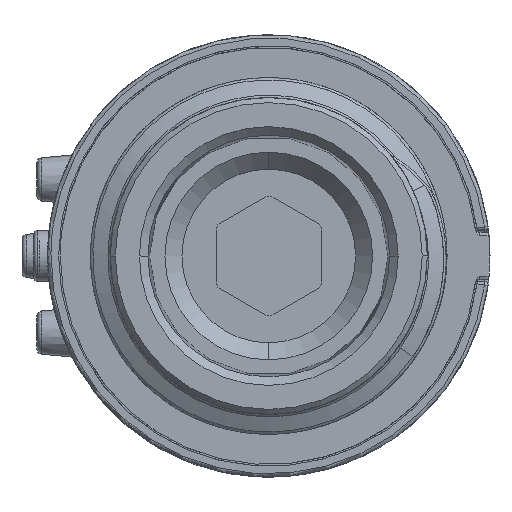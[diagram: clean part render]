
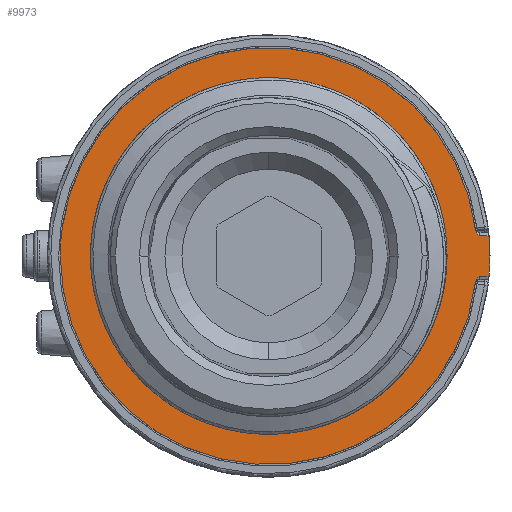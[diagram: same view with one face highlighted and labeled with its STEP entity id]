
A CAD part, front view. The second image highlights one B-rep face of the part: STEP entity #9973.
In plain terms, the highlighted planar face has unit normal (0, -1, 0) as drawn and (1, 0, 0) by its records, which use the part's own axes.
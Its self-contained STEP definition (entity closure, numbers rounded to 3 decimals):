
#6098=CARTESIAN_POINT('',(-10.4,0.,0.));
#6099=DIRECTION('',(-1.,0.,0.));
#6100=DIRECTION('',(0.,0.996,0.092));
#6101=AXIS2_PLACEMENT_3D('',#6098,#6099,#6100);
#6103=CARTESIAN_POINT('',(-10.4,0.,0.));
#6104=DIRECTION('',(-1.,0.,0.));
#6105=DIRECTION('',(0.,1.,0.));
#6106=AXIS2_PLACEMENT_3D('',#6103,#6104,#6105);
#6108=CARTESIAN_POINT('',(-10.4,0.,0.));
#6109=DIRECTION('',(-1.,0.,0.));
#6110=DIRECTION('',(0.,0.992,-0.124));
#6111=AXIS2_PLACEMENT_3D('',#6108,#6109,#6110);
#6113=CARTESIAN_POINT('',(-10.4,0.,0.));
#6114=DIRECTION('',(-1.,0.,0.));
#6115=DIRECTION('',(0.,-1.,0.));
#6116=AXIS2_PLACEMENT_3D('',#6113,#6114,#6115);
#6118=CARTESIAN_POINT('',(-10.4,0.,0.));
#6119=DIRECTION('',(-1.,0.,0.));
#6120=DIRECTION('',(0.,-0.992,0.124));
#6121=AXIS2_PLACEMENT_3D('',#6118,#6119,#6120);
#6123=CARTESIAN_POINT('',(-10.4,0.,0.));
#6124=DIRECTION('',(1.,0.,0.));
#6125=DIRECTION('',(0.,-1.,0.));
#6126=AXIS2_PLACEMENT_3D('',#6123,#6124,#6125);
#6128=CARTESIAN_POINT('',(-10.4,0.,0.));
#6129=DIRECTION('',(1.,0.,0.));
#6130=DIRECTION('',(0.,1.,-0.011));
#6131=AXIS2_PLACEMENT_3D('',#6128,#6129,#6130);
#6133=CARTESIAN_POINT('',(-10.4,0.,0.));
#6134=DIRECTION('',(1.,0.,0.));
#6135=DIRECTION('',(0.,1.,0.));
#6136=AXIS2_PLACEMENT_3D('',#6133,#6134,#6135);
#6138=CARTESIAN_POINT('',(-10.4,0.,0.));
#6139=DIRECTION('',(1.,0.,0.));
#6140=DIRECTION('',(0.,-0.814,0.581));
#6141=AXIS2_PLACEMENT_3D('',#6138,#6139,#6140);
#6143=DIRECTION('',(0.,-1.,0.));
#6144=VECTOR('',#6143,0.552);
#6145=CARTESIAN_POINT('',(-10.4,12.944,1.2));
#6146=LINE('',#6145,#6144);
#7000=CARTESIAN_POINT('',(-10.4,12.392,1.2));
#7001=CARTESIAN_POINT('',(-10.4,12.369,1.219));
#7002=CARTESIAN_POINT('',(-10.4,12.324,1.256));
#7003=CARTESIAN_POINT('',(-10.4,12.266,1.31));
#7004=CARTESIAN_POINT('',(-10.4,12.22,1.365));
#7005=CARTESIAN_POINT('',(-10.4,12.186,1.419));
#7006=CARTESIAN_POINT('',(-10.4,12.164,1.472));
#7007=CARTESIAN_POINT('',(-10.4,12.157,1.506));
#7008=CARTESIAN_POINT('',(-10.4,12.155,1.522));
#7024=CARTESIAN_POINT('',(-10.4,12.155,
-1.522));
#7025=CARTESIAN_POINT('',(-10.4,12.157,
-1.506));
#7026=CARTESIAN_POINT('',(-10.4,12.164,
-1.473));
#7027=CARTESIAN_POINT('',(-10.4,12.186,
-1.419));
#7028=CARTESIAN_POINT('',(-10.4,12.22,
-1.365));
#7029=CARTESIAN_POINT('',(-10.4,12.266,
-1.31));
#7030=CARTESIAN_POINT('',(-10.4,12.324,
-1.256));
#7031=CARTESIAN_POINT('',(-10.4,12.369,
-1.219));
#7032=CARTESIAN_POINT('',(-10.4,12.392,
-1.2));
#7039=DIRECTION('',(0.,1.,0.));
#7040=VECTOR('',#7039,0.552);
#7041=CARTESIAN_POINT('',(-10.4,12.392,
-1.2));
#7042=LINE('',#7041,#7040);
#8458=CARTESIAN_POINT('',(-10.4,-8.394,5.995));
#8459=CARTESIAN_POINT('',(-10.4,-10.315,0.));
#8460=VERTEX_POINT('',#8458);
#8461=VERTEX_POINT('',#8459);
#8462=CARTESIAN_POINT('',(-10.4,10.315,0.));
#8463=VERTEX_POINT('',#8462);
#8464=CARTESIAN_POINT('',(-10.4,12.944,1.2));
#8465=CARTESIAN_POINT('',(-10.4,12.392,1.2));
#8466=VERTEX_POINT('',#8464);
#8467=VERTEX_POINT('',#8465);
#8468=CARTESIAN_POINT('',(-10.4,13.,0.));
#8469=VERTEX_POINT('',#8468);
#8470=CARTESIAN_POINT('',(-10.4,12.944,-1.2));
#8471=VERTEX_POINT('',#8470);
#8472=CARTESIAN_POINT('',(-10.4,12.392,
-1.2));
#8473=VERTEX_POINT('',#8472);
#8474=VERTEX_POINT('',#7024);
#8475=CARTESIAN_POINT('',(-10.4,-12.25,0.));
#8476=VERTEX_POINT('',#8475);
#8477=CARTESIAN_POINT('',(-10.4,-12.155,1.522));
#8478=VERTEX_POINT('',#8477);
#8479=CARTESIAN_POINT('',(-10.4,12.155,1.522));
#8480=VERTEX_POINT('',#8479);
#8481=CARTESIAN_POINT('',(-10.4,10.314,-0.113));
#8482=VERTEX_POINT('',#8481);
#9940=CARTESIAN_POINT('',(-10.4,0.,0.));
#9941=DIRECTION('',(1.,0.,0.));
#9942=DIRECTION('',(0.,1.,0.));
#9943=AXIS2_PLACEMENT_3D('',#9940,#9941,#9942);
#9944=PLANE('',#9943);
#9946=ORIENTED_EDGE('',*,*,#9945,.F.);
#9948=ORIENTED_EDGE('',*,*,#9947,.T.);
#9950=ORIENTED_EDGE('',*,*,#9949,.T.);
#9952=ORIENTED_EDGE('',*,*,#9951,.F.);
#9954=ORIENTED_EDGE('',*,*,#9953,.F.);
#9956=ORIENTED_EDGE('',*,*,#9955,.T.);
#9958=ORIENTED_EDGE('',*,*,#9957,.T.);
#9960=ORIENTED_EDGE('',*,*,#9959,.T.);
#9962=ORIENTED_EDGE('',*,*,#9961,.F.);
#9963=EDGE_LOOP('',(#9946,#9948,#9950,#9952,#9954,#9956,#9958,#9960,#9962));
#9964=FACE_OUTER_BOUND('',#9963,.F.);
#9966=ORIENTED_EDGE('',*,*,#9965,.T.);
#9968=ORIENTED_EDGE('',*,*,#9967,.T.);
#9969=ORIENTED_EDGE('',*,*,#9929,.T.);
#9970=ORIENTED_EDGE('',*,*,#9927,.T.);
#9971=EDGE_LOOP('',(#9966,#9968,#9969,#9970));
#9972=FACE_BOUND('',#9971,.F.);
#9973=ADVANCED_FACE('',(#9964,#9972),#9944,.T.);
#6102=CIRCLE('',#6101,13.);
#6107=CIRCLE('',#6106,13.);
#6112=CIRCLE('',#6111,12.25);
#6117=CIRCLE('',#6116,12.25);
#6122=CIRCLE('',#6121,12.25);
#6127=CIRCLE('',#6126,10.315);
#6132=CIRCLE('',#6131,10.315);
#6137=CIRCLE('',#6136,10.315);
#6142=CIRCLE('',#6141,10.315);
#7009=B_SPLINE_CURVE_WITH_KNOTS('',3,(#7000,#7001,#7002,#7003,#7004,#7005,#7006,
#7007,#7008),.UNSPECIFIED.,.F.,.F.,(4,1,1,1,1,1,4),(0.,0.167,
0.333,0.5,0.667,0.833,1.),
.UNSPECIFIED.);
#7033=B_SPLINE_CURVE_WITH_KNOTS('',3,(#7024,#7025,#7026,#7027,#7028,#7029,#7030,
#7031,#7032),.UNSPECIFIED.,.F.,.F.,(4,1,1,1,1,1,4),(0.,0.167,
0.333,0.5,0.667,0.833,1.),
.UNSPECIFIED.);
#9927=EDGE_CURVE('',#8460,#8461,#6142,.T.);
#9929=EDGE_CURVE('',#8463,#8460,#6137,.T.);
#9945=EDGE_CURVE('',#8466,#8467,#6146,.T.);
#9947=EDGE_CURVE('',#8466,#8469,#6102,.T.);
#9949=EDGE_CURVE('',#8469,#8471,#6107,.T.);
#9951=EDGE_CURVE('',#8473,#8471,#7042,.T.);
#9953=EDGE_CURVE('',#8474,#8473,#7033,.T.);
#9955=EDGE_CURVE('',#8474,#8476,#6112,.T.);
#9957=EDGE_CURVE('',#8476,#8478,#6117,.T.);
#9959=EDGE_CURVE('',#8478,#8480,#6122,.T.);
#9961=EDGE_CURVE('',#8467,#8480,#7009,.T.);
#9965=EDGE_CURVE('',#8461,#8482,#6127,.T.);
#9967=EDGE_CURVE('',#8482,#8463,#6132,.T.);
